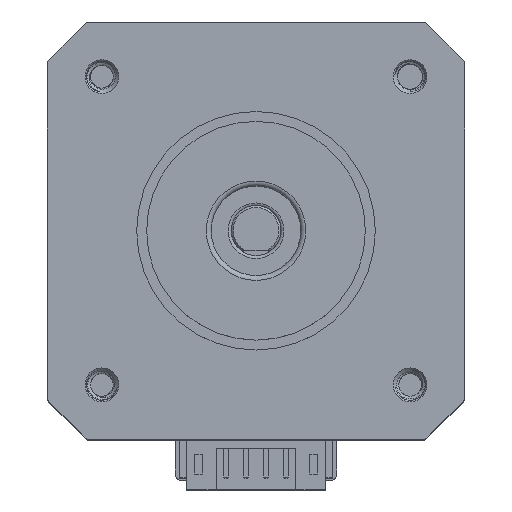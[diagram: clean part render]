
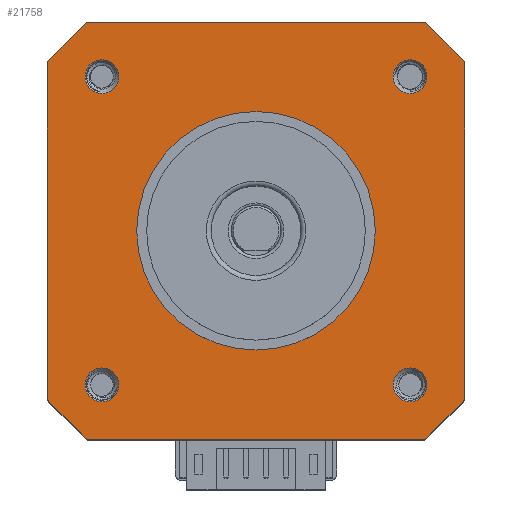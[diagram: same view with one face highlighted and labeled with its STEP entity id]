
A CAD part, top view. The second image highlights one B-rep face of the part: STEP entity #21758.
In plain terms, the highlighted planar face has unit normal (0, 0, 1).
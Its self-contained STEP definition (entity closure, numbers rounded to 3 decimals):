
#160=FACE_BOUND('',#2555,.T.);
#161=FACE_BOUND('',#2556,.T.);
#162=FACE_BOUND('',#2557,.T.);
#163=FACE_BOUND('',#2558,.T.);
#164=FACE_BOUND('',#2559,.T.);
#196=PLANE('',#23298);
#1066=FACE_OUTER_BOUND('',#2554,.T.);
#2554=EDGE_LOOP('',(#14448,#14449,#14450,#14451,#14452,#14453,#14454,#14455,
#14456,#14457,#14458,#14459,#14460,#14461,#14462,#14463));
#2555=EDGE_LOOP('',(#14464));
#2556=EDGE_LOOP('',(#14465));
#2557=EDGE_LOOP('',(#14466));
#2558=EDGE_LOOP('',(#14467));
#2559=EDGE_LOOP('',(#14468));
#4032=CIRCLE('',#23297,0.5);
#4033=CIRCLE('',#23299,0.5);
#4034=CIRCLE('',#23300,0.5);
#4035=CIRCLE('',#23301,0.5);
#4036=CIRCLE('',#23302,0.5);
#4037=CIRCLE('',#23303,0.5);
#4038=CIRCLE('',#23304,0.5);
#4039=CIRCLE('',#23305,0.5);
#4040=CIRCLE('',#23306,1.7);
#4041=CIRCLE('',#23307,12.);
#4042=CIRCLE('',#23308,1.7);
#4043=CIRCLE('',#23309,1.7);
#4044=CIRCLE('',#23310,1.7);
#5453=LINE('',#34660,#7299);
#5454=LINE('',#34664,#7300);
#5455=LINE('',#34668,#7301);
#5456=LINE('',#34672,#7302);
#5457=LINE('',#34676,#7303);
#5458=LINE('',#34680,#7304);
#5459=LINE('',#34684,#7305);
#5460=LINE('',#34687,#7306);
#7299=VECTOR('',#26095,10.);
#7300=VECTOR('',#26098,10.);
#7301=VECTOR('',#26101,10.);
#7302=VECTOR('',#26104,10.);
#7303=VECTOR('',#26107,10.);
#7304=VECTOR('',#26110,10.);
#7305=VECTOR('',#26113,10.);
#7306=VECTOR('',#26116,10.);
#9226=VERTEX_POINT('',#34653);
#9227=VERTEX_POINT('',#34655);
#9228=VERTEX_POINT('',#34659);
#9229=VERTEX_POINT('',#34661);
#9230=VERTEX_POINT('',#34663);
#9231=VERTEX_POINT('',#34665);
#9232=VERTEX_POINT('',#34667);
#9233=VERTEX_POINT('',#34669);
#9234=VERTEX_POINT('',#34671);
#9235=VERTEX_POINT('',#34673);
#9236=VERTEX_POINT('',#34675);
#9237=VERTEX_POINT('',#34677);
#9238=VERTEX_POINT('',#34679);
#9239=VERTEX_POINT('',#34681);
#9240=VERTEX_POINT('',#34683);
#9241=VERTEX_POINT('',#34685);
#9242=VERTEX_POINT('',#34688);
#9243=VERTEX_POINT('',#34690);
#9244=VERTEX_POINT('',#34692);
#9245=VERTEX_POINT('',#34694);
#9246=VERTEX_POINT('',#34696);
#11110=EDGE_CURVE('',#9226,#9227,#4032,.T.);
#11112=EDGE_CURVE('',#9228,#9226,#5453,.T.);
#11113=EDGE_CURVE('',#9229,#9228,#4033,.T.);
#11114=EDGE_CURVE('',#9230,#9229,#5454,.T.);
#11115=EDGE_CURVE('',#9231,#9230,#4034,.T.);
#11116=EDGE_CURVE('',#9232,#9231,#5455,.T.);
#11117=EDGE_CURVE('',#9233,#9232,#4035,.T.);
#11118=EDGE_CURVE('',#9234,#9233,#5456,.T.);
#11119=EDGE_CURVE('',#9235,#9234,#4036,.T.);
#11120=EDGE_CURVE('',#9236,#9235,#5457,.T.);
#11121=EDGE_CURVE('',#9237,#9236,#4037,.T.);
#11122=EDGE_CURVE('',#9238,#9237,#5458,.T.);
#11123=EDGE_CURVE('',#9239,#9238,#4038,.T.);
#11124=EDGE_CURVE('',#9240,#9239,#5459,.T.);
#11125=EDGE_CURVE('',#9241,#9240,#4039,.T.);
#11126=EDGE_CURVE('',#9227,#9241,#5460,.T.);
#11127=EDGE_CURVE('',#9242,#9242,#4040,.T.);
#11128=EDGE_CURVE('',#9243,#9243,#4041,.T.);
#11129=EDGE_CURVE('',#9244,#9244,#4042,.T.);
#11130=EDGE_CURVE('',#9245,#9245,#4043,.T.);
#11131=EDGE_CURVE('',#9246,#9246,#4044,.T.);
#14448=ORIENTED_EDGE('',*,*,#11110,.F.);
#14449=ORIENTED_EDGE('',*,*,#11112,.F.);
#14450=ORIENTED_EDGE('',*,*,#11113,.F.);
#14451=ORIENTED_EDGE('',*,*,#11114,.F.);
#14452=ORIENTED_EDGE('',*,*,#11115,.F.);
#14453=ORIENTED_EDGE('',*,*,#11116,.F.);
#14454=ORIENTED_EDGE('',*,*,#11117,.F.);
#14455=ORIENTED_EDGE('',*,*,#11118,.F.);
#14456=ORIENTED_EDGE('',*,*,#11119,.F.);
#14457=ORIENTED_EDGE('',*,*,#11120,.F.);
#14458=ORIENTED_EDGE('',*,*,#11121,.F.);
#14459=ORIENTED_EDGE('',*,*,#11122,.F.);
#14460=ORIENTED_EDGE('',*,*,#11123,.F.);
#14461=ORIENTED_EDGE('',*,*,#11124,.F.);
#14462=ORIENTED_EDGE('',*,*,#11125,.F.);
#14463=ORIENTED_EDGE('',*,*,#11126,.F.);
#14464=ORIENTED_EDGE('',*,*,#11127,.F.);
#14465=ORIENTED_EDGE('',*,*,#11128,.T.);
#14466=ORIENTED_EDGE('',*,*,#11129,.T.);
#14467=ORIENTED_EDGE('',*,*,#11130,.F.);
#14468=ORIENTED_EDGE('',*,*,#11131,.F.);
#21758=ADVANCED_FACE('',(#1066,#160,#161,#162,#163,#164),#196,.T.);
#23297=AXIS2_PLACEMENT_3D('',#34656,#26090,#26091);
#23298=AXIS2_PLACEMENT_3D('',#34658,#26093,#26094);
#23299=AXIS2_PLACEMENT_3D('',#34662,#26096,#26097);
#23300=AXIS2_PLACEMENT_3D('',#34666,#26099,#26100);
#23301=AXIS2_PLACEMENT_3D('',#34670,#26102,#26103);
#23302=AXIS2_PLACEMENT_3D('',#34674,#26105,#26106);
#23303=AXIS2_PLACEMENT_3D('',#34678,#26108,#26109);
#23304=AXIS2_PLACEMENT_3D('',#34682,#26111,#26112);
#23305=AXIS2_PLACEMENT_3D('',#34686,#26114,#26115);
#23306=AXIS2_PLACEMENT_3D('',#34689,#26117,#26118);
#23307=AXIS2_PLACEMENT_3D('',#34691,#26119,#26120);
#23308=AXIS2_PLACEMENT_3D('',#34693,#26121,#26122);
#23309=AXIS2_PLACEMENT_3D('',#34695,#26123,#26124);
#23310=AXIS2_PLACEMENT_3D('',#34697,#26125,#26126);
#26090=DIRECTION('center_axis',(0.,0.,-1.));
#26091=DIRECTION('ref_axis',(0.924,0.383,0.));
#26093=DIRECTION('center_axis',(0.,0.,1.));
#26094=DIRECTION('ref_axis',(1.,0.,0.));
#26095=DIRECTION('',(0.707,-0.707,0.));
#26096=DIRECTION('center_axis',(0.,0.,-1.));
#26097=DIRECTION('ref_axis',(0.383,0.924,0.));
#26098=DIRECTION('',(1.,0.,0.));
#26099=DIRECTION('center_axis',(0.,0.,-1.));
#26100=DIRECTION('ref_axis',(-0.383,0.924,0.));
#26101=DIRECTION('',(0.707,0.707,0.));
#26102=DIRECTION('center_axis',(0.,0.,-1.));
#26103=DIRECTION('ref_axis',(-0.924,0.383,0.));
#26104=DIRECTION('',(0.,1.,0.));
#26105=DIRECTION('center_axis',(0.,0.,-1.));
#26106=DIRECTION('ref_axis',(-0.924,-0.383,0.));
#26107=DIRECTION('',(-0.707,0.707,0.));
#26108=DIRECTION('center_axis',(0.,0.,-1.));
#26109=DIRECTION('ref_axis',(-0.383,-0.924,0.));
#26110=DIRECTION('',(-1.,0.,0.));
#26111=DIRECTION('center_axis',(0.,0.,-1.));
#26112=DIRECTION('ref_axis',(0.383,-0.924,0.));
#26113=DIRECTION('',(-0.707,-0.707,0.));
#26114=DIRECTION('center_axis',(0.,0.,-1.));
#26115=DIRECTION('ref_axis',(0.924,-0.383,0.));
#26116=DIRECTION('',(0.,-1.,0.));
#26117=DIRECTION('center_axis',(0.,0.,1.));
#26118=DIRECTION('ref_axis',(-1.,0.,0.));
#26119=DIRECTION('center_axis',(0.,0.,-1.));
#26120=DIRECTION('ref_axis',(1.,0.,0.));
#26121=DIRECTION('center_axis',(0.,0.,-1.));
#26122=DIRECTION('ref_axis',(1.,0.,0.));
#26123=DIRECTION('center_axis',(0.,0.,1.));
#26124=DIRECTION('ref_axis',(0.,1.,0.));
#26125=DIRECTION('center_axis',(0.,0.,1.));
#26126=DIRECTION('ref_axis',(0.,-1.,0.));
#34653=CARTESIAN_POINT('',(20.854,17.146,0.));
#34655=CARTESIAN_POINT('',(21.,16.793,0.));
#34656=CARTESIAN_POINT('Origin',(20.5,16.793,0.));
#34658=CARTESIAN_POINT('Origin',(0.,0.,0.));
#34659=CARTESIAN_POINT('',(17.146,20.854,0.));
#34660=CARTESIAN_POINT('',(19.,19.,0.));
#34661=CARTESIAN_POINT('',(16.793,21.,0.));
#34662=CARTESIAN_POINT('Origin',(16.793,20.5,0.));
#34663=CARTESIAN_POINT('',(-16.793,21.,0.));
#34664=CARTESIAN_POINT('',(-21.,21.,0.));
#34665=CARTESIAN_POINT('',(-17.146,20.854,0.));
#34666=CARTESIAN_POINT('Origin',(-16.793,20.5,0.));
#34667=CARTESIAN_POINT('',(-20.854,17.146,0.));
#34668=CARTESIAN_POINT('',(-19.,19.,0.));
#34669=CARTESIAN_POINT('',(-21.,16.793,0.));
#34670=CARTESIAN_POINT('Origin',(-20.5,16.793,0.));
#34671=CARTESIAN_POINT('',(-21.,-16.793,0.));
#34672=CARTESIAN_POINT('',(-21.,-21.,0.));
#34673=CARTESIAN_POINT('',(-20.854,-17.146,0.));
#34674=CARTESIAN_POINT('Origin',(-20.5,-16.793,0.));
#34675=CARTESIAN_POINT('',(-17.146,-20.854,0.));
#34676=CARTESIAN_POINT('',(-19.,-19.,0.));
#34677=CARTESIAN_POINT('',(-16.793,-21.,0.));
#34678=CARTESIAN_POINT('Origin',(-16.793,-20.5,0.));
#34679=CARTESIAN_POINT('',(16.793,-21.,0.));
#34680=CARTESIAN_POINT('',(21.,-21.,0.));
#34681=CARTESIAN_POINT('',(17.146,-20.854,0.));
#34682=CARTESIAN_POINT('Origin',(16.793,-20.5,0.));
#34683=CARTESIAN_POINT('',(20.854,-17.146,0.));
#34684=CARTESIAN_POINT('',(19.,-19.,0.));
#34685=CARTESIAN_POINT('',(21.,-16.793,0.));
#34686=CARTESIAN_POINT('Origin',(20.5,-16.793,0.));
#34687=CARTESIAN_POINT('',(21.,21.,0.));
#34688=CARTESIAN_POINT('',(-13.8,-15.5,0.));
#34689=CARTESIAN_POINT('Origin',(-15.5,-15.5,0.));
#34690=CARTESIAN_POINT('',(-12.,0.,0.));
#34691=CARTESIAN_POINT('Origin',(0.,0.,0.));
#34692=CARTESIAN_POINT('',(13.8,15.5,0.));
#34693=CARTESIAN_POINT('Origin',(15.5,15.5,0.));
#34694=CARTESIAN_POINT('',(-15.5,13.8,0.));
#34695=CARTESIAN_POINT('Origin',(-15.5,15.5,0.));
#34696=CARTESIAN_POINT('',(15.5,-13.8,0.));
#34697=CARTESIAN_POINT('Origin',(15.5,-15.5,0.));
